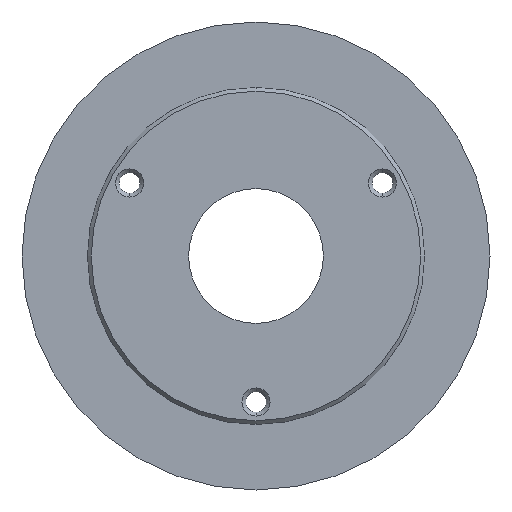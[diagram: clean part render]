
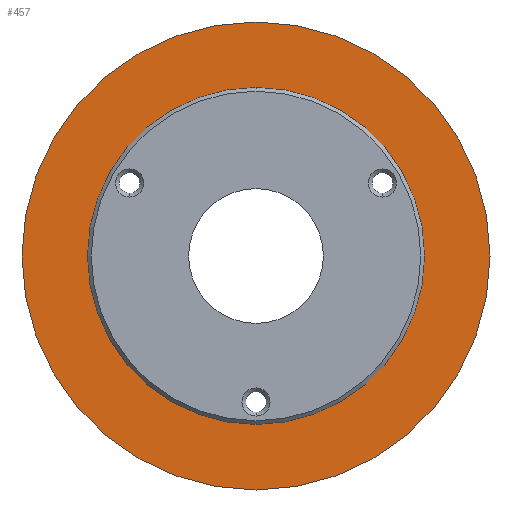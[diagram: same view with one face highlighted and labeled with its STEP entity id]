
A CAD part, front view. The second image highlights one B-rep face of the part: STEP entity #457.
In plain terms, the highlighted planar face has unit normal (0, -1, 0).
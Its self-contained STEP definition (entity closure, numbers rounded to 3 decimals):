
#8 = ORIENTED_EDGE ( 'NONE', *, *, #678, .F. ) ;
#45 = CIRCLE ( 'NONE', #364, 62.5 ) ;
#58 = DIRECTION ( 'NONE',  ( 0., 1., 0. ) ) ;
#99 = AXIS2_PLACEMENT_3D ( 'NONE', #452, #460, #157 ) ;
#116 = AXIS2_PLACEMENT_3D ( 'NONE', #406, #305, #558 ) ;
#157 = DIRECTION ( 'NONE',  ( 0., 0., -1. ) ) ;
#164 = EDGE_CURVE ( 'NONE', #786, #960, #672, .T. ) ;
#198 = ORIENTED_EDGE ( 'NONE', *, *, #164, .T. ) ;
#252 = AXIS2_PLACEMENT_3D ( 'NONE', #952, #58, #363 ) ;
#305 = DIRECTION ( 'NONE',  ( 0., -1., 0. ) ) ;
#347 = DIRECTION ( 'NONE',  ( 0., -1., 0. ) ) ;
#348 = EDGE_LOOP ( 'NONE', ( #503, #198 ) ) ;
#363 = DIRECTION ( 'NONE',  ( 0., 0., 1. ) ) ;
#364 = AXIS2_PLACEMENT_3D ( 'NONE', #635, #1154, #1147 ) ;
#406 = CARTESIAN_POINT ( 'NONE',  ( 0., 11., 0. ) ) ;
#452 = CARTESIAN_POINT ( 'NONE',  ( 0., 11., 0. ) ) ;
#457 = ADVANCED_FACE ( 'NONE', ( #645, #516 ), #610, .F. ) ;
#460 = DIRECTION ( 'NONE',  ( 0., -1., 0. ) ) ;
#466 = EDGE_CURVE ( 'NONE', #960, #786, #45, .T. ) ;
#503 = ORIENTED_EDGE ( 'NONE', *, *, #466, .T. ) ;
#516 = FACE_OUTER_BOUND ( 'NONE', #348, .T. ) ;
#558 = DIRECTION ( 'NONE',  ( 0., 0., -1. ) ) ;
#608 = VERTEX_POINT ( 'NONE', #918 ) ;
#610 = PLANE ( 'NONE',  #252 ) ;
#635 = CARTESIAN_POINT ( 'NONE',  ( 0., 11., 0. ) ) ;
#645 = FACE_BOUND ( 'NONE', #1059, .T. ) ;
#652 = CARTESIAN_POINT ( 'NONE',  ( 0., 11., -62.5 ) ) ;
#667 = CIRCLE ( 'NONE', #116, 45. ) ;
#671 = EDGE_CURVE ( 'NONE', #1173, #608, #910, .T. ) ;
#672 = CIRCLE ( 'NONE', #1106, 62.5 ) ;
#678 = EDGE_CURVE ( 'NONE', #608, #1173, #667, .T. ) ;
#779 = CARTESIAN_POINT ( 'NONE',  ( 0., 11., 62.5 ) ) ;
#786 = VERTEX_POINT ( 'NONE', #779 ) ;
#910 = CIRCLE ( 'NONE', #99, 45. ) ;
#918 = CARTESIAN_POINT ( 'NONE',  ( 0., 11., 45. ) ) ;
#924 = CARTESIAN_POINT ( 'NONE',  ( 0., 11., 0. ) ) ;
#952 = CARTESIAN_POINT ( 'NONE',  ( -45., 11., 0. ) ) ;
#960 = VERTEX_POINT ( 'NONE', #652 ) ;
#982 = ORIENTED_EDGE ( 'NONE', *, *, #671, .F. ) ;
#1021 = DIRECTION ( 'NONE',  ( 0., 0., -1. ) ) ;
#1025 = CARTESIAN_POINT ( 'NONE',  ( 0., 11., -45. ) ) ;
#1059 = EDGE_LOOP ( 'NONE', ( #982, #8 ) ) ;
#1106 = AXIS2_PLACEMENT_3D ( 'NONE', #924, #347, #1021 ) ;
#1147 = DIRECTION ( 'NONE',  ( 0., 0., -1. ) ) ;
#1154 = DIRECTION ( 'NONE',  ( 0., -1., 0. ) ) ;
#1173 = VERTEX_POINT ( 'NONE', #1025 ) ;
